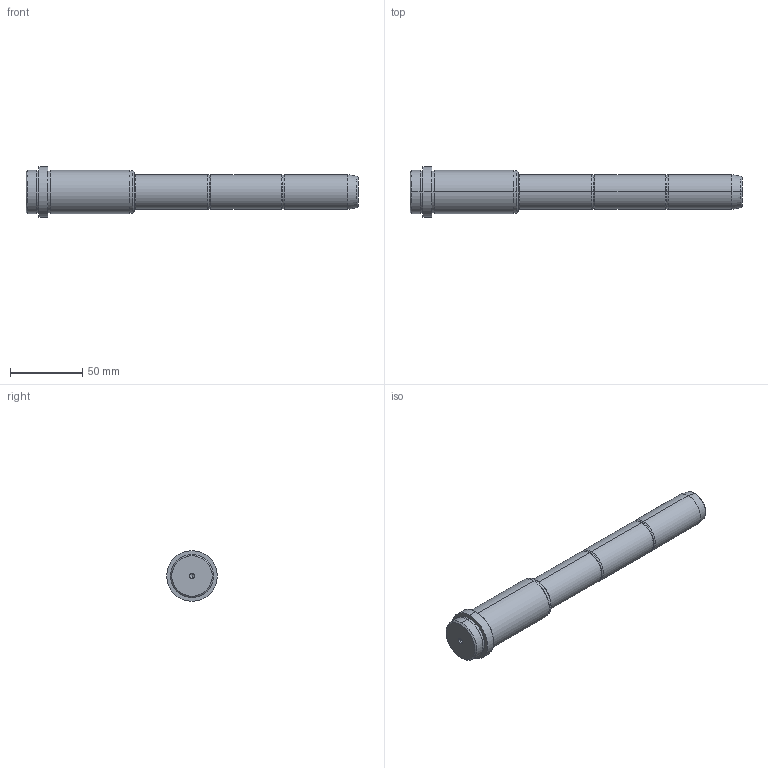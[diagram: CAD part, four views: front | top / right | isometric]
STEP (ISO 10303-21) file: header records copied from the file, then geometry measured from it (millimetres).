
FILE_DESCRIPTION( ( 'STEP AP203' ), '1' );
FILE_NAME( 'C:/Projects/D03 - 24x66x155.step', '2003-01-03T20:54:45', ( ' ' ), ( ' ' ), 'XStep 1.0', ' ', ' ' );
FILE_SCHEMA( ( 'CONFIG_CONTROL_DESIGN' ) );
Length unit declared in the file: metre
Products named in the file (1): 1
Bounding box: 230 x 35 x 35 mm (x, y, z)
Volume: 124219.4 mm3; surface area: 20754.8 mm2
Topology: 1 solids, 1 shells, 56 faces, 113 edges, 64 vertices
Faces by surface type: revolution 36, bspline 20
Entity records: 1691 total; most frequent: CARTESIAN_POINT 513, ORIENTED_EDGE 220, DIRECTION 218, EDGE_CURVE 110, AXIS2_PLACEMENT_3D 73, CIRCLE 72, EDGE_LOOP 64, VERTEX_POINT 64
